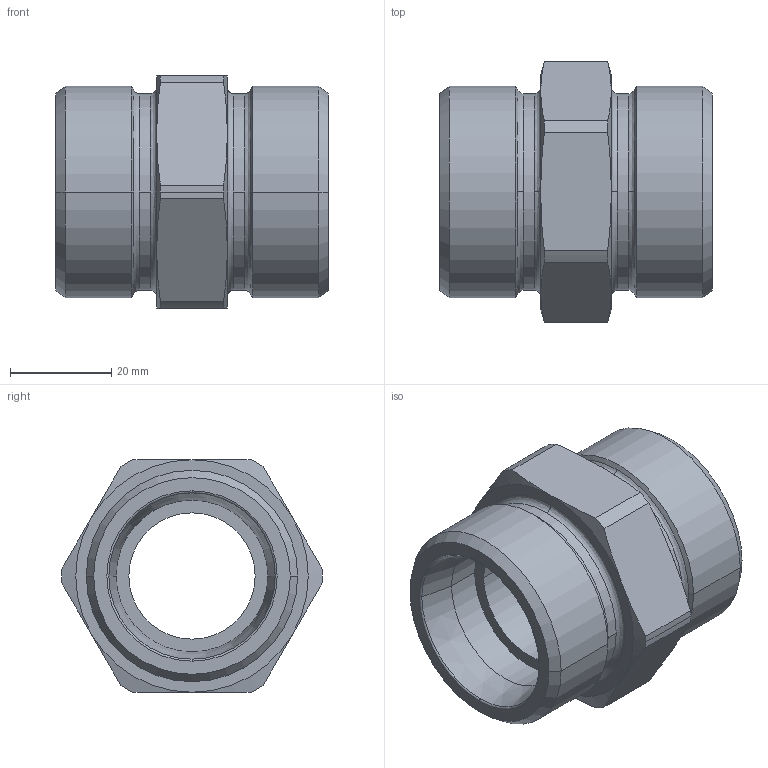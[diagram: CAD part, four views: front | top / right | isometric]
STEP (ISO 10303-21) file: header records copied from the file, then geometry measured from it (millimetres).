
FILE_DESCRIPTION((''),'2;1');
FILE_NAME('103522.stp','2007-10-31T11:32:24',(''),(''),'AutoCAD STEP 2000i','AutoCAD 2000i',', , ');
FILE_SCHEMA(('CONFIG_CONTROL_DESIGN'));
Length unit declared in the file: millimetre
Products named in the file (2): 103522.0; CHIAVE SMUSSATA#0
Assembly tree (1 placements, depth 2):
  103522.0
    CHIAVE SMUSSATA#0
Bounding box: 54 x 51.6 x 46 mm (x, y, z)
Volume: 44988.8 mm3; surface area: 14564 mm2
Topology: 1 solids, 1 shells, 70 faces, 172 edges, 108 vertices
Faces by surface type: cone 24, cylinder 22, plane 12, bspline 8, torus 4
Entity records: 2513 total; most frequent: CARTESIAN_POINT 752, DIRECTION 384, ORIENTED_EDGE 344, AXIS2_PLACEMENT_3D 172, EDGE_CURVE 172, VERTEX_POINT 108, CIRCLE 108, EDGE_LOOP 76
